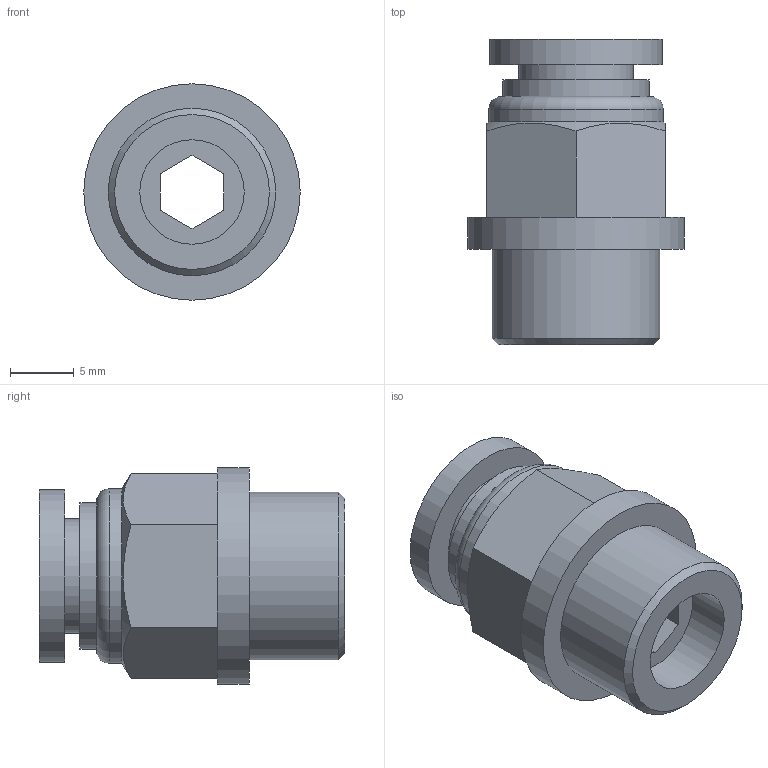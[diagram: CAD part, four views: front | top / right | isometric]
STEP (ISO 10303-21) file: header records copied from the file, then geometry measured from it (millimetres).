
FILE_DESCRIPTION((''),'2;1');
FILE_NAME('S:\UTecnico\ArchivioUT\Speciali Clienti\Speciali KONFIT\Plastica\RP\RP 51\RP511408.stp','2012-05-17T14:58:47',('UT5'),(''),'Autodesk Inventor 2012','Autodesk Inventor 2012','');
FILE_SCHEMA(('AUTOMOTIVE_DESIGN { 1 0 10303 214 1 1 1 1 }'));
Length unit declared in the file: millimetre
Products named in the file (1): RP511408
Bounding box: 17 x 24 x 17 mm (x, y, z)
Volume: 2537.5 mm3; surface area: 2165.3 mm2
Topology: 1 solids, 1 shells, 32 faces, 66 edges, 43 vertices
Faces by surface type: plane 21, cylinder 8, cone 2, torus 1
Full cylindrical faces by diameter (mm): 8 x1, 8.2 x1, 9 x1, 11.5 x1, 13.157 x1, 13.6 x1, 13.7 x1, 17 x1
Entity records: 825 total; most frequent: CARTESIAN_POINT 141, DIRECTION 132, ORIENTED_EDGE 108, EDGE_CURVE 54, EDGE_LOOP 52, AXIS2_PLACEMENT_3D 51, VERTEX_POINT 42, FACE_OUTER_BOUND 32
